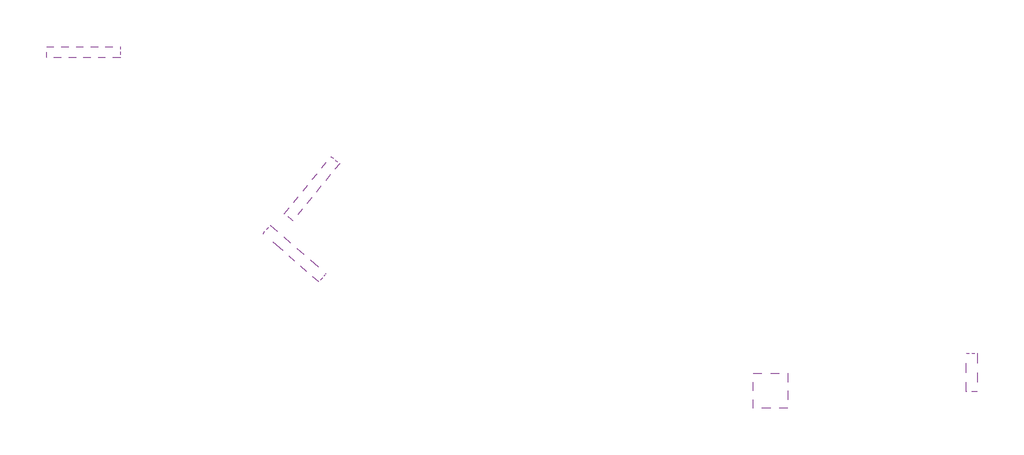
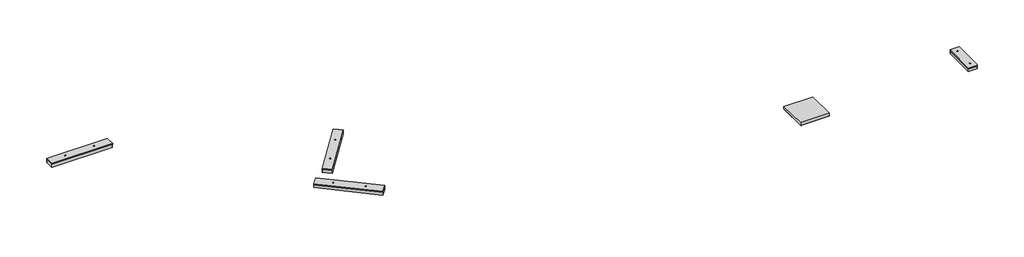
# One storey, incomplete: 5 light fixtures.
"""IFC4 building model written with IfcOpenShell, lengths in millimetres."""

import ifcopenshell
import ifcopenshell.guid

model = None  # the IFC model being written
_history = None  # IfcOwnerHistory: only IFC2X3 demands one
_inside = {}  # id of a spatial element -> (the spatial element, [elements in it])
_under = {}  # id of a project, library or spatial element -> (it, [spatial elements below it])
_declared = {}  # id of a project -> (the project, [libraries it declares])
_typed = {}  # id of a type object -> (the type object, [elements of that type])
_made_of = {}  # id of a material, layer set ... -> (it, [elements and type objects made of it])


def new_model(schema):
    """Start an empty IFC model of exactly this schema.

    Asked for "IFC4X3", IfcOpenShell would pick the latest addendum, in which some entities
    have other attributes; the version numbers below select the first issue.
    IFC2X3 requires an IfcOwnerHistory on every rooted entity: one is made here for all.
    """
    global model, _history
    if schema == "IFC4X3":
        model = ifcopenshell.file(schema_version=(4, 3, 0, 0))
    else:
        model = ifcopenshell.file(schema=schema)
    _inside.clear()
    _under.clear()
    _declared.clear()
    _typed.clear()
    _made_of.clear()
    _history = None
    if model.schema == "IFC2X3":
        org = make("IfcOrganization", Name="unknown")
        user = make(
            "IfcPersonAndOrganization",
            ThePerson=make("IfcPerson", FamilyName="unknown"),
            TheOrganization=org,
        )
        app = make(
            "IfcApplication",
            ApplicationDeveloper=org,
            Version="unknown",
            ApplicationFullName="unknown",
            ApplicationIdentifier="unknown",
        )
        _history = make(
            "IfcOwnerHistory",
            OwningUser=user,
            OwningApplication=app,
            ChangeAction="ADDED",
            CreationDate=0,
        )
    return model


def make(cls, **values):
    """One entity of the class cls with the attributes given. An attribute that is None is left unset."""
    return model.create_entity(
        cls, **{name: value for name, value in values.items() if value is not None}
    )


def rooted(cls, **values):
    """An entity with a GlobalId (a new one), such as an element, a storey or a relation."""
    return make(cls, GlobalId=ifcopenshell.guid.new(), OwnerHistory=_history, **values)


def si_unit(unit_type, name, prefix=None):
    """IfcSIUnit, for example si_unit("LENGTHUNIT", "METRE", prefix="MILLI")."""
    return make("IfcSIUnit", UnitType=unit_type, Prefix=prefix, Name=name)


def assignment(units):
    """IfcUnitAssignment: the units of a project."""
    return None if units is None else make("IfcUnitAssignment", Units=units)


def point(xyz):
    """IfcCartesianPoint."""
    return None if xyz is None else make("IfcCartesianPoint", Coordinates=xyz)


def direction(xyz):
    """IfcDirection."""
    return None if xyz is None else make("IfcDirection", DirectionRatios=xyz)


def frame(location, z_axis=None, x_axis=None):
    """IfcAxis2Placement3D, a coordinate frame: its origin and axes. An axis left out is left unset."""
    return make(
        "IfcAxis2Placement3D",
        Location=point(location),
        Axis=direction(z_axis),
        RefDirection=direction(x_axis),
    )


def frame_2d(location, x_axis=None):
    """IfcAxis2Placement2D, a coordinate frame in the plane: its origin and x axis."""
    return make(
        "IfcAxis2Placement2D", Location=point(location), RefDirection=direction(x_axis)
    )


def origin():
    """The frame at (0, 0, 0) with its axes left unset."""
    return frame((0.0, 0.0, 0.0))


def origin_with_axes():
    """The frame at (0, 0, 0) with the z axis (0, 0, 1) and the x axis (1, 0, 0) written out."""
    return frame((0.0, 0.0, 0.0), z_axis=(0.0, 0.0, 1.0), x_axis=(1.0, 0.0, 0.0))


def place(relative_to, where):
    """IfcLocalPlacement: puts the frame where relative to a parent placement (None: the world)."""
    return make(
        "IfcLocalPlacement", PlacementRelTo=relative_to, RelativePlacement=where
    )


def context(
    kind, dimensions, precision=None, world=None, true_north=None, identifier=None
):
    """IfcGeometricRepresentationContext, for example the 3D "Model" context."""
    return make(
        "IfcGeometricRepresentationContext",
        ContextIdentifier=identifier,
        ContextType=kind,
        CoordinateSpaceDimension=dimensions,
        Precision=precision,
        WorldCoordinateSystem=world,
        TrueNorth=true_north,
    )


def project(units=None, contexts=None):
    """IfcProject with its units and contexts."""
    return rooted(
        "IfcProject",
        Name="project",
        RepresentationContexts=contexts,
        UnitsInContext=assignment(units),
    )


def spatial(cls, under=None, at=None, **own):
    """A site, building, storey or space (cls), placed at a placement, below another one or the project."""
    s = rooted(cls, ObjectPlacement=at, **own)
    if under is not None:
        _under.setdefault(under.id(), (under, []))[1].append(s)
    return s


def polyline(points):
    """IfcPolyline through the points."""
    return make("IfcPolyline", Points=[point(p) for p in points])


def circle_curve(where, radius):
    """IfcCircle in the frame where."""
    return make("IfcCircle", Position=where, Radius=radius)


def trimmed(basis, trim1, trim2, sense, master):
    """IfcTrimmedCurve: the piece of a basis curve between two trims."""
    return make(
        "IfcTrimmedCurve",
        BasisCurve=basis,
        Trim1=trim1,
        Trim2=trim2,
        SenseAgreement=sense,
        MasterRepresentation=master,
    )


def segment(curve, same_sense, transition):
    """IfcCompositeCurveSegment."""
    return make(
        "IfcCompositeCurveSegment",
        Transition=transition,
        SameSense=same_sense,
        ParentCurve=curve,
    )


def composite_curve(segments, self_intersect=None):
    """IfcCompositeCurve: segments joined end to end."""
    return make("IfcCompositeCurve", Segments=segments, SelfIntersect=self_intersect)


def outline(outer, holes=None, kind="AREA"):
    """IfcArbitraryClosedProfileDef: a profile drawn as a closed curve; with holes, ...WithVoids."""
    if holes is None:
        return make("IfcArbitraryClosedProfileDef", ProfileType=kind, OuterCurve=outer)
    return make(
        "IfcArbitraryProfileDefWithVoids",
        ProfileType=kind,
        OuterCurve=outer,
        InnerCurves=holes,
    )


def extrude(swept, where, along, depth):
    """IfcExtrudedAreaSolid: the profile swept, set in the frame where, extruded along a direction by depth."""
    return make(
        "IfcExtrudedAreaSolid",
        SweptArea=swept,
        Position=where,
        ExtrudedDirection=direction(along),
        Depth=depth,
    )


def faces_of(points, faces, orient=None, outer=None):
    """IfcFace entities. A face is a list of loops; a loop is a list of indices into points, from 0.

    orient and outer hold one flag for each loop. By default every Orientation is true, the
    first loop of a face is its IfcFaceOuterBound and the others are IfcFaceBound.
    """
    made = []
    for i, loops in enumerate(faces):
        bounds = []
        for j, loop in enumerate(loops):
            is_outer = j == 0 if outer is None else outer[i][j]
            bounds.append(
                make(
                    "IfcFaceOuterBound" if is_outer else "IfcFaceBound",
                    Bound=make("IfcPolyLoop", Polygon=[points[k] for k in loop]),
                    Orientation=True if orient is None else orient[i][j],
                )
            )
        made.append(make("IfcFace", Bounds=bounds))
    return made


def faceted_brep(points, faces, orient=None, outer=None, voids=None):
    """IfcFacetedBrep: a solid bounded by flat faces; with voids (closed shells), ...WithVoids."""
    shared = [point(p) for p in points]
    hull = make("IfcClosedShell", CfsFaces=faces_of(shared, faces, orient, outer))
    if voids is None:
        return make("IfcFacetedBrep", Outer=hull)
    return make(
        "IfcFacetedBrepWithVoids",
        Outer=hull,
        Voids=[
            make(cls, CfsFaces=faces_of(shared, fs, o, b)) for cls, fs, o, b in voids
        ],
    )


def shape(context_of_items, identifier, shape_type, items):
    """IfcShapeRepresentation: the items that make up one representation, for example the "Body"."""
    return make(
        "IfcShapeRepresentation",
        ContextOfItems=context_of_items,
        RepresentationIdentifier=identifier,
        RepresentationType=shape_type,
        Items=items,
    )


def source(mapping_origin, context_of_items, identifier, shape_type, items):
    """IfcRepresentationMap: a shape defined once, which mapped items show again and again."""
    return make(
        "IfcRepresentationMap",
        MappingOrigin=mapping_origin,
        MappedRepresentation=shape(context_of_items, identifier, shape_type, items),
    )


def transform(
    local_origin,
    x_axis=None,
    y_axis=None,
    z_axis=None,
    scale=None,
    scale2=None,
    scale3=None,
    uniform=True,
):
    """IfcCartesianTransformationOperator3D, or its non-uniform kind. x_axis, y_axis, z_axis: its Axis1, 2, 3."""
    if uniform:
        return make(
            "IfcCartesianTransformationOperator3D",
            Axis1=direction(x_axis),
            Axis2=direction(y_axis),
            LocalOrigin=point(local_origin),
            Scale=scale,
            Axis3=direction(z_axis),
        )
    return make(
        "IfcCartesianTransformationOperator3DnonUniform",
        Axis1=direction(x_axis),
        Axis2=direction(y_axis),
        LocalOrigin=point(local_origin),
        Scale=scale,
        Axis3=direction(z_axis),
        Scale2=scale2,
        Scale3=scale3,
    )


def mapped(mapping_source, mapping_target):
    """IfcMappedItem: shows the shape of a source again, moved by a transform."""
    return make(
        "IfcMappedItem", MappingSource=mapping_source, MappingTarget=mapping_target
    )


def made_of(thing, what):
    """Note that an element or type object is made of a material, layer set ...; save() writes the relation."""
    if what is not None:
        _made_of.setdefault(what.id(), (what, []))[1].append(thing)
    return thing


def element(
    cls,
    number,
    at=None,
    inside=None,
    cuts=None,
    type_object=None,
    material=None,
    context=None,
    identifier="Body",
    shape_type=None,
    held_by="IfcProductDefinitionShape",
    body=None,
    shapes=None,
    **own,
):
    """One element of the class cls, such as IfcWall. Its Tag is "e" and its number.

    at: its placement. inside: the storey or other place that contains it. cuts: it is an
    opening in that element (IfcRelVoidsElement). A single representation is given by context,
    identifier, shape_type and body (its items); several are given by shapes. held_by: the class
    of the entity that holds the representations. save() writes the other relations.
    """
    e = rooted(cls, Tag="e%d" % number, ObjectPlacement=at, **own)
    if body is not None:
        shapes = [shape(context, identifier, shape_type, body)]
    if shapes is not None:
        e.Representation = make(held_by, Representations=shapes)
    if inside is not None:
        _inside.setdefault(inside.id(), (inside, []))[1].append(e)
    if cuts is not None:
        rooted(
            "IfcRelVoidsElement", RelatingBuildingElement=cuts, RelatedOpeningElement=e
        )
    if type_object is not None:
        _typed.setdefault(type_object.id(), (type_object, []))[1].append(e)
    return made_of(e, material)


def aggregate(whole, parts):
    """IfcRelAggregates: a whole, such as a stair, and the parts it consists of."""
    return rooted("IfcRelAggregates", RelatingObject=whole, RelatedObjects=parts)


def save(model, path):
    """Write the relations noted so far, then the file.

    IfcRelAggregates (storeys below a building ...), IfcRelContainedInSpatialStructure (elements
    in a storey), IfcRelDefinesByType, IfcRelAssociatesMaterial and IfcRelDeclares: one each for
    every whole, place, type object, material and project.
    """
    for whole, parts in _under.values():
        aggregate(whole, parts)
    for where, things in _inside.values():
        rooted(
            "IfcRelContainedInSpatialStructure",
            RelatedElements=things,
            RelatingStructure=where,
        )
    for kind, things in _typed.values():
        rooted("IfcRelDefinesByType", RelatedObjects=things, RelatingType=kind)
    for what, things in _made_of.values():
        rooted("IfcRelAssociatesMaterial", RelatedObjects=things, RelatingMaterial=what)
    for by, libraries in _declared.values():
        rooted("IfcRelDeclares", RelatingContext=by, RelatedDefinitions=libraries)
    model.write(path)


def light_fixture_91a3bebd(model_context):
    return source(origin(), model_context, "Body", "SolidModel", [
        faceted_brep([(-280.0, 280.0, 80.0), (-280.0, -280.0, 80.0), (280.0, -280.0, 80.0), (280.0, 280.0, 80.0), (270.0, 270.0, 80.0), (270.0, -270.0, 80.0), (-270.0, -270.0, 80.0), (-270.0, 270.0, 80.0), (-300.0, 300.0, 60.0), (300.0, 300.0, 60.0), (300.0, -300.0, 60.0), (-300.0, -300.0, 60.0), (270.0, 270.0, 77.0), (-270.0, 270.0, 77.0), (-270.0, -270.0, 77.0), (270.0, -270.0, 77.0)], [[[0, 1, 2, 3], [4, 5, 6, 7]], [[8, 9, 10, 11]], [[1, 0, 8, 11]], [[2, 1, 11, 10]], [[3, 2, 10, 9]], [[0, 3, 9, 8]], [[12, 13, 14, 15]], [[12, 15, 5, 4]], [[15, 14, 6, 5]], [[14, 13, 7, 6]], [[13, 12, 4, 7]]]),
        extrude(outline(polyline([(-300.0, 300.0), (300.0, 300.0), (300.0, -300.0), (-300.0, -300.0), (-300.0, 300.0)])), origin_with_axes(), (0.0, 0.0, 1.0), 60.0),
    ])


def light_fixture_827c025e(model_context):
    return source(origin(), model_context, "Body", "SweptSolid", [
        extrude(outline(composite_curve([segment(polyline([(-10.0, 3.0), (-5.0, 3.0)]), True, "CONTINUOUS"), segment(trimmed(circle_curve(frame_2d((0.0, 3.0)), 5.0), [point((-5.0, 3.0))], [point((5.0, 3.0))], False, "CARTESIAN"), True, "CONTINUOUS"), segment(polyline([(5.0, 3.0), (10.0, 3.0), (10.0, 0.0), (3.0, 0.0)]), True, "CONTINUOUS"), segment(trimmed(circle_curve(frame_2d((0.0, 1.4671776)), 3.3395524), [point((3.0, 0.0))], [point((-3.0, 0.0))], True, "CARTESIAN"), True, "CONTINUOUS"), segment(polyline([(-3.0, 0.0), (-10.0, 0.0), (-10.0, 3.0)]), True, "CONTINUOUS")], self_intersect=False)), frame((-233.1421762, 0.0, 0.0), z_axis=(1.0, 0.0, 0.0), x_axis=(0.0, 1.0, 0.0)), (0.0, 0.0, 1.0), 15.4101384),
        extrude(outline(composite_curve([segment(polyline([(-10.0, 3.0), (-5.0, 3.0)]), True, "CONTINUOUS"), segment(trimmed(circle_curve(frame_2d((0.0, 3.0)), 5.0), [point((-5.0, 3.0))], [point((5.0, 3.0))], False, "CARTESIAN"), True, "CONTINUOUS"), segment(polyline([(5.0, 3.0), (10.0, 3.0), (10.0, 0.0), (3.0, 0.0)]), True, "CONTINUOUS"), segment(trimmed(circle_curve(frame_2d((0.0, 1.4671776)), 3.3395524), [point((3.0, 0.0))], [point((-3.0, 0.0))], True, "CARTESIAN"), True, "CONTINUOUS"), segment(polyline([(-3.0, 0.0), (-10.0, 0.0), (-10.0, 3.0)]), True, "CONTINUOUS")], self_intersect=False)), frame((217.7320377, 0.0, 0.0), z_axis=(1.0, 0.0, 0.0), x_axis=(0.0, 1.0, 0.0)), (0.0, 0.0, 1.0), 15.4101384),
        extrude(outline(composite_curve([segment(trimmed(circle_curve(frame_2d((328.5, 93.5)), 1.5), [point((328.5, 95.0))], [point((330.0, 93.5))], False, "CARTESIAN"), True, "CONTINUOUS"), segment(polyline([(330.0, 93.5), (330.0, -93.5)]), True, "CONTINUOUS"), segment(trimmed(circle_curve(frame_2d((328.5, -93.5)), 1.5), [point((330.0, -93.5))], [point((328.5, -95.0))], False, "CARTESIAN"), True, "CONTINUOUS"), segment(polyline([(328.5, -95.0), (-328.5, -95.0)]), True, "CONTINUOUS"), segment(trimmed(circle_curve(frame_2d((-328.5, -93.5)), 1.5), [point((-328.5, -95.0))], [point((-330.0, -93.5))], False, "CARTESIAN"), True, "CONTINUOUS"), segment(polyline([(-330.0, -93.5), (-330.0, 93.5)]), True, "CONTINUOUS"), segment(trimmed(circle_curve(frame_2d((-328.5, 93.5)), 1.5), [point((-330.0, 93.5))], [point((-328.5, 95.0))], False, "CARTESIAN"), True, "CONTINUOUS"), segment(polyline([(-328.5, 95.0), (328.5, 95.0)]), True, "CONTINUOUS")], self_intersect=False)), frame((0.0, 0.0, -85.0), z_axis=(0.0, 0.0, 1.0), x_axis=(1.0, 0.0, 0.0)), (0.0, 0.0, 1.0), 61.6947106),
        extrude(outline(composite_curve([segment(trimmed(circle_curve(frame_2d((329.2504542, 94.2504542)), 0.7495458), [point((329.2504542, 95.0))], [point((330.0, 94.2504542))], False, "CARTESIAN"), True, "CONTINUOUS"), segment(polyline([(330.0, 94.2504542), (330.0, -94.3331699)]), True, "CONTINUOUS"), segment(trimmed(circle_curve(frame_2d((329.3331699, -94.3331699)), 0.6668301), [point((330.0, -94.3331699))], [point((329.3331699, -95.0))], False, "CARTESIAN"), True, "CONTINUOUS"), segment(polyline([(329.3331699, -95.0), (-329.3035332, -95.0)]), True, "CONTINUOUS"), segment(trimmed(circle_curve(frame_2d((-329.3035332, -94.3035332)), 0.6964668), [point((-329.3035332, -95.0))], [point((-330.0, -94.3035332))], False, "CARTESIAN"), True, "CONTINUOUS"), segment(polyline([(-330.0, -94.3035332), (-330.0, 94.3113008)]), True, "CONTINUOUS"), segment(trimmed(circle_curve(frame_2d((-329.3113008, 94.3113008)), 0.6886992), [point((-330.0, 94.3113008))], [point((-329.3113008, 95.0))], False, "CARTESIAN"), True, "CONTINUOUS"), segment(polyline([(-329.3113008, 95.0), (329.2504542, 95.0)]), True, "CONTINUOUS")], self_intersect=False)), frame((0.0, 0.0, -23.3052894), z_axis=(0.0, 0.0, 1.0), x_axis=(1.0, 0.0, 0.0)), (0.0, 0.0, 1.0), 23.3052894),
        extrude(outline(polyline([(330.0, 5.7115124), (330.0, -5.8702471), (320.1820926, -5.8702471), (320.1820926, 5.7115124), (330.0, 5.7115124)])), frame((0.0, 0.0, -17.8855767), z_axis=(0.0, 0.0, 1.0), x_axis=(1.0, 0.0, 0.0)), (0.0, 0.0, 1.0), 11.6787364),
    ])


def light_fixture_83e7464a(model_context):
    return source(origin(), model_context, "Body", "SweptSolid", [
        extrude(outline(composite_curve([segment(polyline([(-10.0, 3.0), (-5.0, 3.0)]), True, "CONTINUOUS"), segment(trimmed(circle_curve(frame_2d((0.0, 3.0)), 5.0), [point((-5.0, 3.0))], [point((5.0, 3.0))], False, "CARTESIAN"), True, "CONTINUOUS"), segment(polyline([(5.0, 3.0), (10.0, 3.0), (10.0, 0.0), (3.0, 0.0)]), True, "CONTINUOUS"), segment(trimmed(circle_curve(frame_2d((0.0, 1.4671776)), 3.3395524), [point((3.0, 0.0))], [point((-3.0, 0.0))], True, "CARTESIAN"), True, "CONTINUOUS"), segment(polyline([(-3.0, 0.0), (-10.0, 0.0), (-10.0, 3.0)]), True, "CONTINUOUS")], self_intersect=False)), frame((-307.7050692, 0.0, 0.0), z_axis=(1.0, 0.0, 0.0), x_axis=(0.0, 1.0, 0.0)), (0.0, 0.0, 1.0), 15.4101384),
        extrude(outline(composite_curve([segment(polyline([(-10.0, 3.0), (-5.0, 3.0)]), True, "CONTINUOUS"), segment(trimmed(circle_curve(frame_2d((0.0, 3.0)), 5.0), [point((-5.0, 3.0))], [point((5.0, 3.0))], False, "CARTESIAN"), True, "CONTINUOUS"), segment(polyline([(5.0, 3.0), (10.0, 3.0), (10.0, 0.0), (3.0, 0.0)]), True, "CONTINUOUS"), segment(trimmed(circle_curve(frame_2d((0.0, 1.4671776)), 3.3395524), [point((3.0, 0.0))], [point((-3.0, 0.0))], True, "CARTESIAN"), True, "CONTINUOUS"), segment(polyline([(-3.0, 0.0), (-10.0, 0.0), (-10.0, 3.0)]), True, "CONTINUOUS")], self_intersect=False)), frame((292.2949308, 0.0, 0.0), z_axis=(1.0, 0.0, 0.0), x_axis=(0.0, 1.0, 0.0)), (0.0, 0.0, 1.0), 15.4101384),
        extrude(outline(composite_curve([segment(trimmed(circle_curve(frame_2d((633.5, 93.5)), 1.5), [point((633.5, 95.0))], [point((635.0, 93.5))], False, "CARTESIAN"), True, "CONTINUOUS"), segment(polyline([(635.0, 93.5), (635.0, -93.5)]), True, "CONTINUOUS"), segment(trimmed(circle_curve(frame_2d((633.5, -93.5)), 1.5), [point((635.0, -93.5))], [point((633.5, -95.0))], False, "CARTESIAN"), True, "CONTINUOUS"), segment(polyline([(633.5, -95.0), (-633.5, -95.0)]), True, "CONTINUOUS"), segment(trimmed(circle_curve(frame_2d((-633.5, -93.5)), 1.5), [point((-633.5, -95.0))], [point((-635.0, -93.5))], False, "CARTESIAN"), True, "CONTINUOUS"), segment(polyline([(-635.0, -93.5), (-635.0, 93.5)]), True, "CONTINUOUS"), segment(trimmed(circle_curve(frame_2d((-633.5, 93.5)), 1.5), [point((-635.0, 93.5))], [point((-633.5, 95.0))], False, "CARTESIAN"), True, "CONTINUOUS"), segment(polyline([(-633.5, 95.0), (633.5, 95.0)]), True, "CONTINUOUS")], self_intersect=False)), frame((0.0, 0.0, -85.0), z_axis=(0.0, 0.0, 1.0), x_axis=(1.0, 0.0, 0.0)), (0.0, 0.0, 1.0), 61.6947106),
        extrude(outline(composite_curve([segment(trimmed(circle_curve(frame_2d((634.2504542, 94.2504542)), 0.7495458), [point((634.2504542, 95.0))], [point((635.0, 94.2504542))], False, "CARTESIAN"), True, "CONTINUOUS"), segment(polyline([(635.0, 94.2504542), (635.0, -94.3331699)]), True, "CONTINUOUS"), segment(trimmed(circle_curve(frame_2d((634.3331699, -94.3331699)), 0.6668301), [point((635.0, -94.3331699))], [point((634.3331699, -95.0))], False, "CARTESIAN"), True, "CONTINUOUS"), segment(polyline([(634.3331699, -95.0), (-634.3035332, -95.0)]), True, "CONTINUOUS"), segment(trimmed(circle_curve(frame_2d((-634.3035332, -94.3035332)), 0.6964668), [point((-634.3035332, -95.0))], [point((-635.0, -94.3035332))], False, "CARTESIAN"), True, "CONTINUOUS"), segment(polyline([(-635.0, -94.3035332), (-635.0, 94.3113008)]), True, "CONTINUOUS"), segment(trimmed(circle_curve(frame_2d((-634.3113008, 94.3113008)), 0.6886992), [point((-635.0, 94.3113008))], [point((-634.3113008, 95.0))], False, "CARTESIAN"), True, "CONTINUOUS"), segment(polyline([(-634.3113008, 95.0), (634.2504542, 95.0)]), True, "CONTINUOUS")], self_intersect=False)), frame((0.0, 0.0, -23.3052894), z_axis=(0.0, 0.0, 1.0), x_axis=(1.0, 0.0, 0.0)), (0.0, 0.0, 1.0), 23.3052894),
        extrude(outline(polyline([(635.0, 5.7115124), (635.0, -5.8702471), (625.1820926, -5.8702471), (625.1820926, 5.7115124), (635.0, 5.7115124)])), frame((0.0, 0.0, -17.8855767), z_axis=(0.0, 0.0, 1.0), x_axis=(1.0, 0.0, 0.0)), (0.0, 0.0, 1.0), 11.6787364),
    ])


model = new_model("IFC4")

# Units and contexts
model_context = context("Model", 3, world=origin())
ifc_project = project(units=[si_unit("LENGTHUNIT", "METRE", prefix="MILLI")], contexts=[model_context])

# Site, building, storey
site = spatial("IfcSite", under=ifc_project)
building = spatial("IfcBuilding", under=site)
storey = spatial("IfcBuildingStorey", under=building, Name="Этаж 1", Elevation=0.0)

# Light fixtures
placement = place(None, origin())
light_fixture_shape = light_fixture_91a3bebd(model_context)
element("IfcLightFixture", 1, ObjectType="OPL S (открыто) : OPL S", at=placement, inside=storey, context=model_context, shape_type="MappedRepresentation", body=[
    mapped(light_fixture_shape, transform((13235.0, 1345.0, 2550.0), x_axis=(1.0, 0.0, 0.0), y_axis=(0.0, -1.0, 0.0), z_axis=(0.0, 0.0, -1.0))),
])
light_fixture_2_shape = light_fixture_827c025e(model_context)
element("IfcLightFixture", 2, ObjectType="ДПО46 Contur F : ДПО46-19-801", at=placement, inside=storey, context=model_context, shape_type="MappedRepresentation", body=[
    mapped(light_fixture_2_shape, transform((16703.4303464, 1660.0, 2306.4104946), x_axis=(0.0, 1.0, 0.0), y_axis=(-1.0, 0.0, 0.0), z_axis=(0.0, 0.0, 1.0))),
])
light_fixture_3_shape = light_fixture_83e7464a(model_context)
element("IfcLightFixture", 3, ObjectType="ДПО46 Contur F : ДПО46-76-801", at=placement, inside=storey, context=model_context, shape_type="MappedRepresentation", body=[
    mapped(light_fixture_3_shape, transform((5036.883943, 3707.8515633, 2329.0030998), x_axis=(0.7547095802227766, -0.6560590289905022, 0.0), y_axis=(0.6560590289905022, 0.7547095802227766, 0.0), z_axis=(0.0, 0.0, 1.0))),
])
element("IfcLightFixture", 4, ObjectType="ДПО46 Contur F : ДПО46-76-801", at=placement, inside=storey, context=model_context, shape_type="MappedRepresentation", body=[
    mapped(light_fixture_3_shape, transform((5337.1140353, 4828.3255218, 2329.0030998), x_axis=(0.6310722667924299, 0.7757240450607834, 0.0), y_axis=(-0.7757240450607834, 0.6310722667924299, 0.0), z_axis=(0.0, 0.0, 1.0))),
])
element("IfcLightFixture", 5, ObjectType="ДПО46 Contur F : ДПО46-76-801", at=placement, inside=storey, context=model_context, shape_type="MappedRepresentation", body=[
    mapped(light_fixture_3_shape, transform((1400.0, 7180.0, 2244.0030998), x_axis=(1.0, 0.0, 0.0), y_axis=(0.0, 1.0, 0.0), z_axis=(0.0, 0.0, 1.0))),
])

save(model, "model.ifc")
